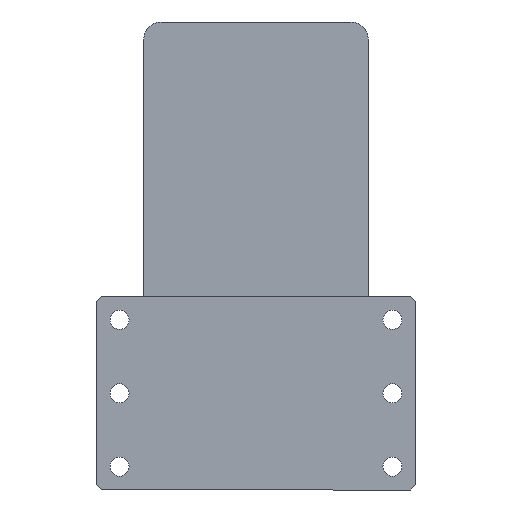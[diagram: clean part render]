
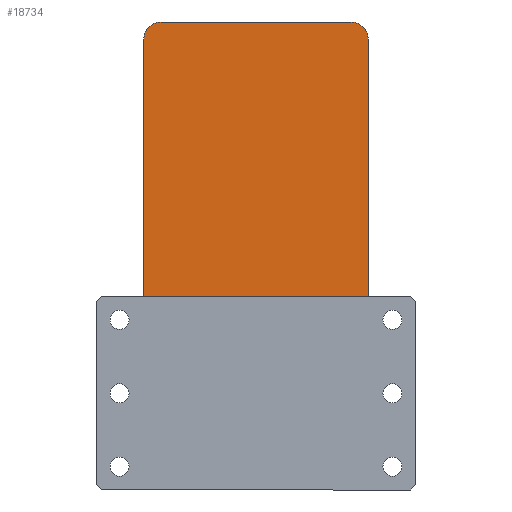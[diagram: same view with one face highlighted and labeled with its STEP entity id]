
A CAD part, left-side view. The second image highlights one B-rep face of the part: STEP entity #18734.
In plain terms, the highlighted planar face has unit normal (-1, 0, 0) as drawn and (0, 0, 1) by its records, which use the part's own axes.
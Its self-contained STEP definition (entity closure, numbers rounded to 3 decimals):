
#113 = DIRECTION ( 'NONE',  ( 1., 0., 0. ) ) ;
#143 = DIRECTION ( 'NONE',  ( 0., 0., 1. ) ) ;
#176 = CARTESIAN_POINT ( 'NONE',  ( -55., 125., 105. ) ) ;
#464 = EDGE_LOOP ( 'NONE', ( #10215, #7888, #13332, #1231, #13785, #22748, #4441, #2887 ) ) ;
#1043 = CARTESIAN_POINT ( 'NONE',  ( -65., -125., 105. ) ) ;
#1079 = VERTEX_POINT ( 'NONE', #22318 ) ;
#1101 = CARTESIAN_POINT ( 'NONE',  ( 55., -125., 105. ) ) ;
#1231 = ORIENTED_EDGE ( 'NONE', *, *, #18919, .T. ) ;
#1833 = LINE ( 'NONE', #20967, #19843 ) ;
#2659 = CARTESIAN_POINT ( 'NONE',  ( 65., 125., 105. ) ) ;
#2780 = EDGE_CURVE ( 'NONE', #13924, #20925, #12021, .T. ) ;
#2887 = ORIENTED_EDGE ( 'NONE', *, *, #15691, .T. ) ;
#3139 = DIRECTION ( 'NONE',  ( 1., 0., 0. ) ) ;
#4441 = ORIENTED_EDGE ( 'NONE', *, *, #2780, .T. ) ;
#6291 = VERTEX_POINT ( 'NONE', #20842 ) ;
#6573 = CIRCLE ( 'NONE', #12676, 10. ) ;
#7873 = DIRECTION ( 'NONE',  ( -1., 0., 0. ) ) ;
#7888 = ORIENTED_EDGE ( 'NONE', *, *, #19994, .T. ) ;
#7961 = CARTESIAN_POINT ( 'NONE',  ( -65., 135., 105. ) ) ;
#8351 = DIRECTION ( 'NONE',  ( 1., 0., 0. ) ) ;
#8355 = DIRECTION ( 'NONE',  ( 0., 0., 1. ) ) ;
#8374 = CARTESIAN_POINT ( 'NONE',  ( -55., -125., 105. ) ) ;
#8643 = DIRECTION ( 'NONE',  ( 1., 0., 0. ) ) ;
#8694 = DIRECTION ( 'NONE',  ( 0., 0., 1. ) ) ;
#8714 = CARTESIAN_POINT ( 'NONE',  ( 55., 125., 105. ) ) ;
#9320 = AXIS2_PLACEMENT_3D ( 'NONE', #176, #143, #113 ) ;
#9446 = CIRCLE ( 'NONE', #11603, 10. ) ;
#9861 = VERTEX_POINT ( 'NONE', #17532 ) ;
#10215 = ORIENTED_EDGE ( 'NONE', *, *, #22281, .T. ) ;
#10356 = VERTEX_POINT ( 'NONE', #14582 ) ;
#10649 = CIRCLE ( 'NONE', #19972, 10. ) ;
#10749 = CARTESIAN_POINT ( 'NONE',  ( 65., 135., 105. ) ) ;
#10887 = AXIS2_PLACEMENT_3D ( 'NONE', #12923, #12506, #12449 ) ;
#11250 = CIRCLE ( 'NONE', #9320, 10. ) ;
#11603 = AXIS2_PLACEMENT_3D ( 'NONE', #8374, #8355, #8351 ) ;
#12003 = VECTOR ( 'NONE', #17878, 1000. ) ;
#12021 = LINE ( 'NONE', #15830, #12003 ) ;
#12349 = FACE_OUTER_BOUND ( 'NONE', #464, .T. ) ;
#12449 = DIRECTION ( 'NONE',  ( 1., 0., 0. ) ) ;
#12506 = DIRECTION ( 'NONE',  ( 0., 0., 1. ) ) ;
#12676 = AXIS2_PLACEMENT_3D ( 'NONE', #1101, #14347, #3139 ) ;
#12696 = PLANE ( 'NONE',  #10887 ) ;
#12827 = VECTOR ( 'NONE', #19329, 1000. ) ;
#12866 = LINE ( 'NONE', #7961, #16918 ) ;
#12923 = CARTESIAN_POINT ( 'NONE',  ( 0., 0., 105. ) ) ;
#13332 = ORIENTED_EDGE ( 'NONE', *, *, #21856, .T. ) ;
#13785 = ORIENTED_EDGE ( 'NONE', *, *, #17470, .T. ) ;
#13924 = VERTEX_POINT ( 'NONE', #22380 ) ;
#14347 = DIRECTION ( 'NONE',  ( 0., 0., 1. ) ) ;
#14462 = DIRECTION ( 'NONE',  ( 1., 0., 0. ) ) ;
#14582 = CARTESIAN_POINT ( 'NONE',  ( -55., -135., 105. ) ) ;
#15691 = EDGE_CURVE ( 'NONE', #20925, #10356, #9446, .T. ) ;
#15830 = CARTESIAN_POINT ( 'NONE',  ( -65., 135., 105. ) ) ;
#16404 = VERTEX_POINT ( 'NONE', #2659 ) ;
#16918 = VECTOR ( 'NONE', #7873, 1000. ) ;
#17391 = LINE ( 'NONE', #10749, #12827 ) ;
#17470 = EDGE_CURVE ( 'NONE', #6291, #23197, #12866, .T. ) ;
#17532 = CARTESIAN_POINT ( 'NONE',  ( 55., -135., 105. ) ) ;
#17861 = EDGE_CURVE ( 'NONE', #23197, #13924, #11250, .T. ) ;
#17878 = DIRECTION ( 'NONE',  ( 0., -1., 0. ) ) ;
#18734 = ADVANCED_FACE ( 'NONE', ( #12349 ), #12696, .T. ) ;
#18919 = EDGE_CURVE ( 'NONE', #16404, #6291, #10649, .T. ) ;
#19329 = DIRECTION ( 'NONE',  ( 0., 1., 0. ) ) ;
#19828 = CARTESIAN_POINT ( 'NONE',  ( -55., 135., 105. ) ) ;
#19843 = VECTOR ( 'NONE', #14462, 1000. ) ;
#19972 = AXIS2_PLACEMENT_3D ( 'NONE', #8714, #8694, #8643 ) ;
#19994 = EDGE_CURVE ( 'NONE', #9861, #1079, #6573, .T. ) ;
#20842 = CARTESIAN_POINT ( 'NONE',  ( 55., 135., 105. ) ) ;
#20925 = VERTEX_POINT ( 'NONE', #1043 ) ;
#20967 = CARTESIAN_POINT ( 'NONE',  ( -65., -135., 105. ) ) ;
#21856 = EDGE_CURVE ( 'NONE', #1079, #16404, #17391, .T. ) ;
#22281 = EDGE_CURVE ( 'NONE', #10356, #9861, #1833, .T. ) ;
#22318 = CARTESIAN_POINT ( 'NONE',  ( 65., -125., 105. ) ) ;
#22380 = CARTESIAN_POINT ( 'NONE',  ( -65., 125., 105. ) ) ;
#22748 = ORIENTED_EDGE ( 'NONE', *, *, #17861, .T. ) ;
#23197 = VERTEX_POINT ( 'NONE', #19828 ) ;
